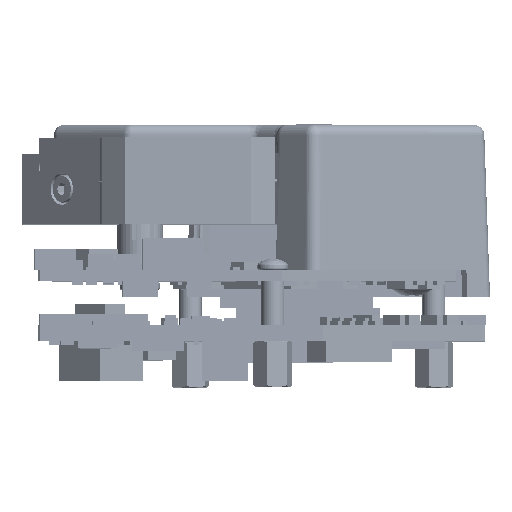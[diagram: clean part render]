
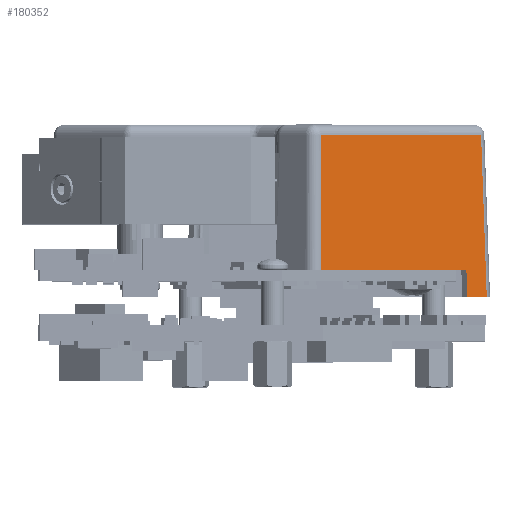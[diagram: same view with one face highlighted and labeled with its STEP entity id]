
A CAD part, top view. The second image highlights one B-rep face of the part: STEP entity #180352.
In plain terms, the highlighted planar face has unit normal (0.698, 0.035, 0.715) as drawn and (-0.999, 0, 0.035) by its records, which use the part's own axes.
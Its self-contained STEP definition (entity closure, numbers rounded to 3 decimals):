
#59542 = CARTESIAN_POINT ( 'NONE',  ( -9.19, -14.931, -19.8 ) ) ;
#59550 = CARTESIAN_POINT ( 'NONE',  ( -9.19, -18.733, -19.8 ) ) ;
#59554 = CARTESIAN_POINT ( 'NONE',  ( -9.063, -14.931, -16.15 ) ) ;
#59565 = CARTESIAN_POINT ( 'NONE',  ( -9.063, 13.232, -16.15 ) ) ;
#59570 = CARTESIAN_POINT ( 'NONE',  ( -8.409, -18.402, 2.552 ) ) ;
#59577 = CARTESIAN_POINT ( 'NONE',  ( -8.409, 12.579, 2.552 ) ) ;
#70923 = PLANE ( 'NONE',  #275153 ) ;
#70927 = CARTESIAN_POINT ( 'NONE',  ( -9.19, 14.858, -19.8 ) ) ;
#70943 = DIRECTION ( 'NONE',  ( -0.999, 0., 0.035 ) ) ;
#70945 = DIRECTION ( 'NONE',  ( 0.035, 0., 0.999 ) ) ;
#73962 = FACE_OUTER_BOUND ( 'NONE', #203562, .T. ) ;
#161910 = EDGE_CURVE ( 'NONE', #174206, #174211, #225729, .T. ) ;
#161962 = EDGE_CURVE ( 'NONE', #174225, #174215, #225804, .T. ) ;
#161964 = EDGE_CURVE ( 'NONE', #174215, #174206, #225807, .T. ) ;
#161967 = EDGE_CURVE ( 'NONE', #174211, #174228, #225811, .T. ) ;
#161969 = EDGE_CURVE ( 'NONE', #174228, #174235, #225814, .T. ) ;
#161971 = EDGE_CURVE ( 'NONE', #174235, #174225, #225818, .T. ) ;
#174206 = VERTEX_POINT ( 'NONE', #59542 ) ;
#174211 = VERTEX_POINT ( 'NONE', #59550 ) ;
#174215 = VERTEX_POINT ( 'NONE', #59554 ) ;
#174225 = VERTEX_POINT ( 'NONE', #59565 ) ;
#174228 = VERTEX_POINT ( 'NONE', #59570 ) ;
#174235 = VERTEX_POINT ( 'NONE', #59577 ) ;
#180352 = ADVANCED_FACE ( 'NONE', ( #73962 ), #70923, .T. ) ;
#183083 = ORIENTED_EDGE ( 'NONE', *, *, #161962, .T. ) ;
#183085 = ORIENTED_EDGE ( 'NONE', *, *, #161964, .T. ) ;
#183087 = ORIENTED_EDGE ( 'NONE', *, *, #161910, .T. ) ;
#183089 = ORIENTED_EDGE ( 'NONE', *, *, #161967, .T. ) ;
#183091 = ORIENTED_EDGE ( 'NONE', *, *, #161969, .T. ) ;
#183093 = ORIENTED_EDGE ( 'NONE', *, *, #161971, .T. ) ;
#203562 = EDGE_LOOP ( 'NONE', ( #183083, #183085, #183087, #183089, #183091, #183093 ) ) ;
#225728 = VECTOR ( 'NONE', #234514, 1000. ) ;
#225729 = LINE ( 'NONE', #234507, #225728 ) ;
#225804 = LINE ( 'NONE', #234683, #225809 ) ;
#225807 = LINE ( 'NONE', #234688, #225812 ) ;
#225809 = VECTOR ( 'NONE', #234686, 1000. ) ;
#225811 = LINE ( 'NONE', #234693, #225816 ) ;
#225812 = VECTOR ( 'NONE', #234691, 1000. ) ;
#225814 = LINE ( 'NONE', #234700, #225819 ) ;
#225816 = VECTOR ( 'NONE', #234698, 1000. ) ;
#225818 = LINE ( 'NONE', #234707, #225823 ) ;
#225819 = VECTOR ( 'NONE', #234705, 1000. ) ;
#225823 = VECTOR ( 'NONE', #234710, 1000. ) ;
#234507 = CARTESIAN_POINT ( 'NONE',  ( -9.19, 14.858, -19.8 ) ) ;
#234514 = DIRECTION ( 'NONE',  ( 0., -1., 0. ) ) ;
#234683 = CARTESIAN_POINT ( 'NONE',  ( -9.063, 14.858, -16.15 ) ) ;
#234686 = DIRECTION ( 'NONE',  ( 0., -1., 0. ) ) ;
#234688 = CARTESIAN_POINT ( 'NONE',  ( -9.19, -14.931, -19.8 ) ) ;
#234691 = DIRECTION ( 'NONE',  ( -0.035, 0., -0.999 ) ) ;
#234693 = CARTESIAN_POINT ( 'NONE',  ( -9.173, -18.726, -19.303 ) ) ;
#234698 = DIRECTION ( 'NONE',  ( 0.035, 0.015, 0.999 ) ) ;
#234700 = CARTESIAN_POINT ( 'NONE',  ( -8.409, 14.858, 2.552 ) ) ;
#234705 = DIRECTION ( 'NONE',  ( 0., 1., 0. ) ) ;
#234707 = CARTESIAN_POINT ( 'NONE',  ( -9.192, 13.361, -19.852 ) ) ;
#234710 = DIRECTION ( 'NONE',  ( -0.035, 0.035, -0.999 ) ) ;
#275153 = AXIS2_PLACEMENT_3D ( 'NONE', #70927, #70943, #70945 ) ;
